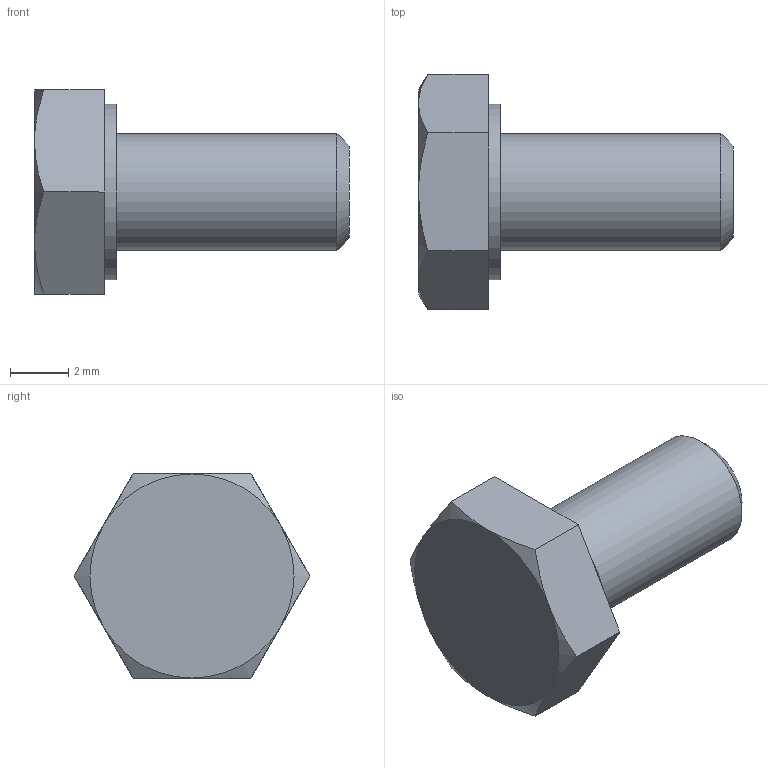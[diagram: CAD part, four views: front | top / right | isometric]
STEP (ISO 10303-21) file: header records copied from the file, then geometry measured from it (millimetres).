
FILE_DESCRIPTION(/* description */ ('6각 머리 나사'),/* implementation_level */ '2;1');
FILE_NAME(/* name */ '',/* time_stamp */ '2024-07-17T10:50:09+09:00',/* author */ ('jhkim'),/* organization */ (''),/* preprocessor_version */ 'ST-DEVELOPER v20',/* originating_system */ 'Autodesk Inventor 2025',/* authorisation */ '');
FILE_SCHEMA (('AUTOMOTIVE_DESIGN { 1 0 10303 214 3 1 1 }'));
Length unit declared in the file: millimetre
Products named in the file (1): 육각볼트 M4 x 8
Bounding box: 10.8 x 8.08 x 7 mm (x, y, z)
Volume: 212.4 mm3; surface area: 245.8 mm2
Topology: 1 solids, 1 shells, 19 faces, 39 edges, 24 vertices
Faces by surface type: plane 10, cone 7, cylinder 2
Full cylindrical faces by diameter (mm): 4 x1, 6.03 x1
Entity records: 528 total; most frequent: CARTESIAN_POINT 107, DIRECTION 79, ORIENTED_EDGE 78, EDGE_CURVE 39, AXIS2_PLACEMENT_3D 32, VERTEX_POINT 24, EDGE_LOOP 21, FACE_OUTER_BOUND 19
